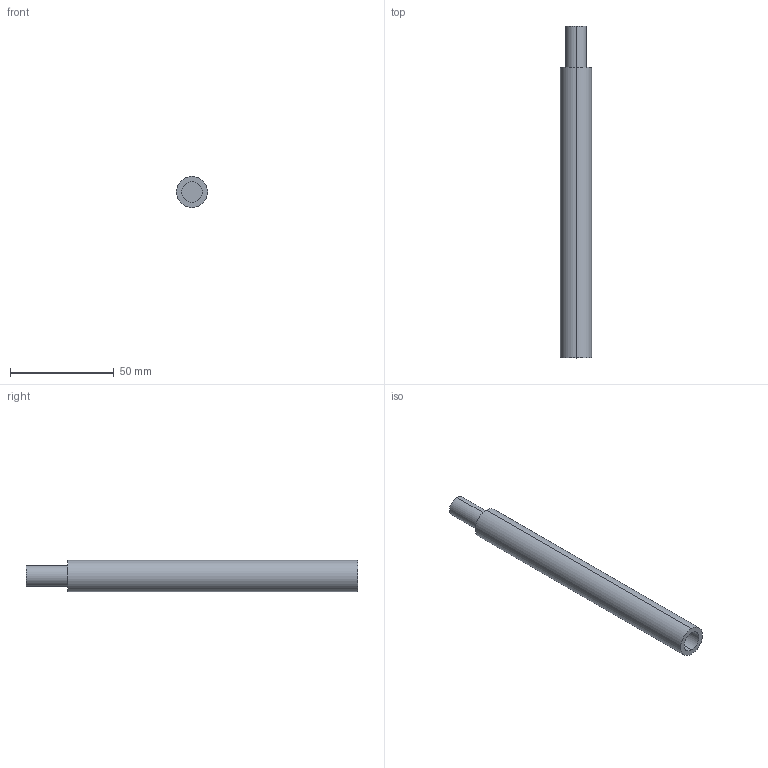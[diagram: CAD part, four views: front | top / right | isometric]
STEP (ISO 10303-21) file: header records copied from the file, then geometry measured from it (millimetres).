
FILE_DESCRIPTION (( 'STEP AP203' ), '1' );
FILE_NAME ('Podstawa-P_Domyœlna_sldprt.STEP', '2024-05-21T11:40:25', ( '' ), ( '' ), 'SwSTEP 2.0', 'SolidWorks 2024', '' );
FILE_SCHEMA (( 'CONFIG_CONTROL_DESIGN' ));
Length unit declared in the file: millimetre
Products named in the file (1): Podstawa-P_Domyślna_sldprt
Bounding box: 15 x 160 x 15 mm (x, y, z)
Volume: 25525.4 mm3; surface area: 7893.3 mm2
Topology: 1 solids, 1 shells, 10 faces, 18 edges, 12 vertices
Faces by surface type: cylinder 6, plane 4
Entity records: 331 total; most frequent: DIRECTION 52, CARTESIAN_POINT 41, ORIENTED_EDGE 36, AXIS2_PLACEMENT_3D 23, EDGE_CURVE 18, VERTEX_POINT 12, CIRCLE 12, EDGE_LOOP 12
